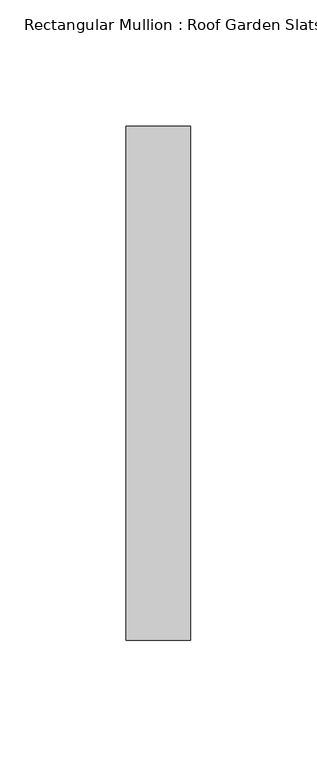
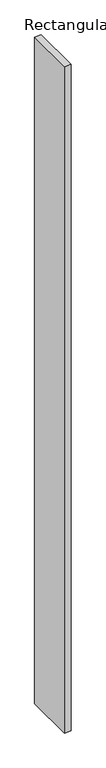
"""IFC4 building model written with IfcOpenShell, lengths in millimetres: member geometry, Rectangular Mullion : Roof Garden Slats."""

from ifc_helpers import new_model, si_unit, frame, origin, place, context, project, spatial, polyline, outline, extrude, source, transform, mapped, element, save


def rectangular_mullion_roof_garden_slats_83cf5b3e(model_context):
    return source(origin(), model_context, "Body", "SweptSolid", [
        extrude(outline(polyline([(12.7, 139.7), (12.7, -63.5), (-12.7, -63.5), (-12.7, 139.7), (12.7, 139.7)])), frame((0.0, 0.0, -2775.4480135), z_axis=(0.0, 0.0, 1.0), x_axis=(1.0, 0.0, 0.0)), (0.0, 0.0, 1.0), 2775.4480135),
    ])


if __name__ == "__main__":
    model = new_model("IFC4")
    model_context = context("Model", 3, world=origin())
    ifc_project = project(units=[si_unit("LENGTHUNIT", "METRE", prefix="MILLI")], contexts=[model_context])
    site = spatial("IfcSite", under=ifc_project)
    building = spatial("IfcBuilding", under=site)
    placement = place(None, origin())
    rectangular_mullion_roof_garden_slats_shape = rectangular_mullion_roof_garden_slats_83cf5b3e(model_context)
    element("IfcMember", 1, ObjectType="Rectangular Mullion : Roof Garden Slats", at=placement, inside=building, context=model_context, shape_type="MappedRepresentation", body=[
        mapped(rectangular_mullion_roof_garden_slats_shape, transform((0.0, 0.0, 0.0), x_axis=(1.0, 0.0, 0.0), y_axis=(0.0, 1.0, 0.0), z_axis=(0.0, 0.0, 1.0))),
    ])
    save(model, "model.ifc")
